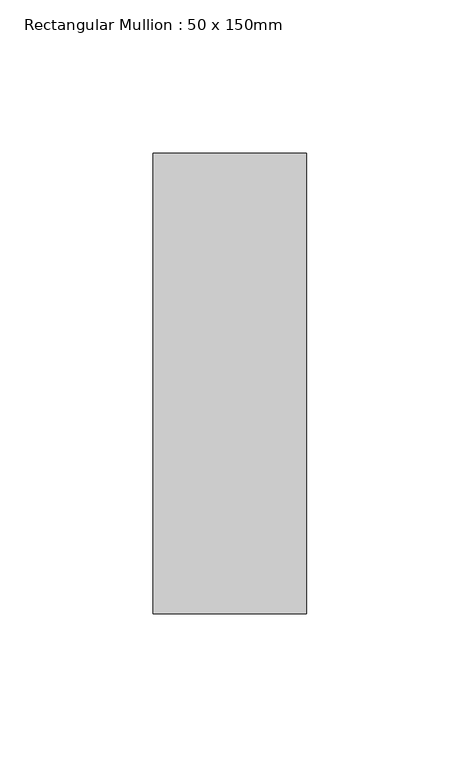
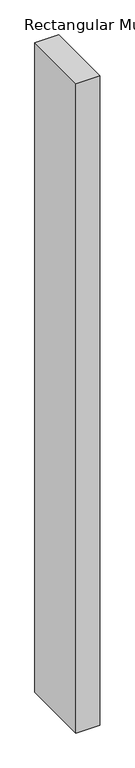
"""IFC4 building model written with IfcOpenShell, lengths in millimetres: member geometry, Rectangular Mullion : 50 x 150mm."""

from ifc_helpers import new_model, si_unit, frame, origin, place, context, project, spatial, polyline, outline, extrude, source, transform, mapped, element, save


def rectangular_mullion_50_x_150mm_372c5efd(model_context):
    return source(origin(), model_context, "Body", "SweptSolid", [
        extrude(outline(polyline([(25.0, 75.0), (25.0, -75.0), (-25.0, -75.0), (-25.0, 75.0), (25.0, 75.0)])), frame((0.0, 0.0, -1449.0000002), z_axis=(0.0, 0.0, 1.0), x_axis=(1.0, 0.0, 0.0)), (0.0, 0.0, 1.0), 1449.0000002),
    ])


if __name__ == "__main__":
    model = new_model("IFC4")
    model_context = context("Model", 3, world=origin())
    ifc_project = project(units=[si_unit("LENGTHUNIT", "METRE", prefix="MILLI")], contexts=[model_context])
    site = spatial("IfcSite", under=ifc_project)
    building = spatial("IfcBuilding", under=site)
    placement = place(None, origin())
    rectangular_mullion_50_x_150mm_shape = rectangular_mullion_50_x_150mm_372c5efd(model_context)
    element("IfcMember", 1, ObjectType="Rectangular Mullion : 50 x 150mm", at=placement, inside=building, context=model_context, shape_type="MappedRepresentation", body=[
        mapped(rectangular_mullion_50_x_150mm_shape, transform((0.0, 0.0, 0.0), x_axis=(1.0, 0.0, 0.0), y_axis=(0.0, 1.0, 0.0), z_axis=(0.0, 0.0, 1.0))),
    ])
    save(model, "model.ifc")
